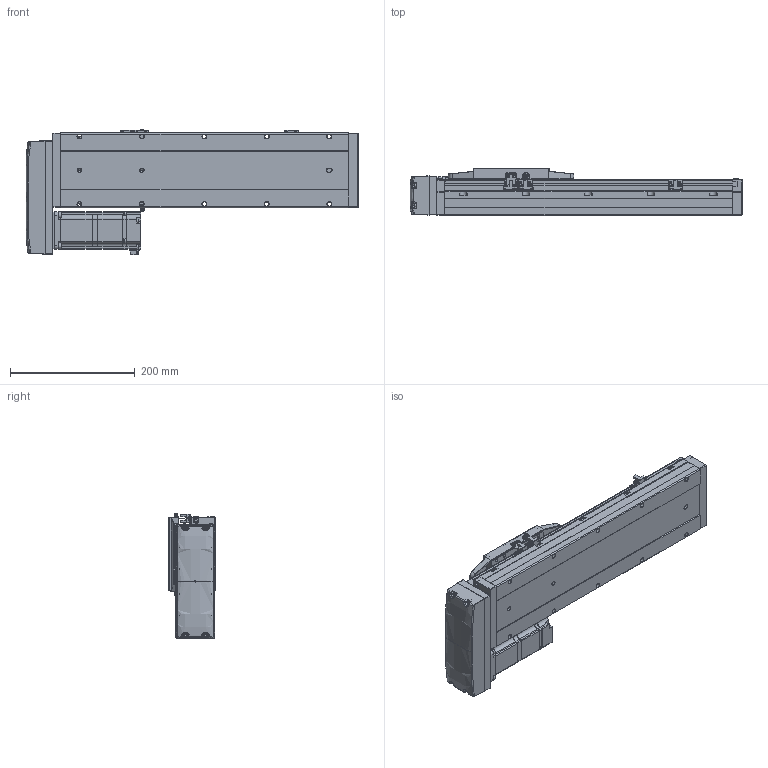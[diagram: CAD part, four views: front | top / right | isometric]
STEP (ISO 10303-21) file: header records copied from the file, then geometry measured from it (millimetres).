
FILE_DESCRIPTION (( 'STEP AP214' ), '1' );
FILE_NAME ('CTH12-L10-S250-BR-C40（简）.STEP', '2023-02-04T07:09:34', ( '' ), ( '' ), 'SwSTEP 2.0', 'SolidWorks 2018', '' );
FILE_SCHEMA (( 'AUTOMOTIVE_DESIGN' ));
Length unit declared in the file: millimetre
Products named in the file (24): M5蹟隊; 内六角圆柱头螺钉M3-1; 嫖萇羲壽郪磁2; CTH12侧装连接板（标准）简; PM-Y45; CTH400W假蚾啣; CTH12賑怢ㄗ潠ㄘ; 嫖萇羲壽郪磁1; CTH12-BL_body_4; CTH12耜蚾裔; CTH12覜茼え; AC60_Valor predeterminado; CTH12_body_3; CTH12-L10-S250-BR-C40（简）; 内六角圆柱头螺钉M3-2; CTH400W垫板（3个厚）; CTH嫖萇羲壽假蚾啣; CTH12; 湮賑怢  裔赽-1(CTH12)賑怢; CTH12賑怢郪磁; 内六角圆柱头螺钉M3; 蚐郲; CTH12底座-L461简（250行程）; hex nuts, style 1-grades ab gb_GB_FASTENER_NUT_SNAB1 M3-N
Assembly tree (44 placements, depth 4):
  CTH12-L10-S250-BR-C40（简）
    CTH12底座-L461简（250行程）
    蚐郲  x2
    CTH12_body_3
    CTH12-BL_body_4
    CTH12侧装连接板（标准）简
    CTH12耜蚾裔
    CTH12賑怢郪磁
      CTH12
        湮賑怢  裔赽-1(CTH12)賑怢
        CTH12賑怢ㄗ潠ㄘ
    CTH12覜茼え
    嫖萇羲壽郪磁1  x2
      CTH嫖萇羲壽假蚾啣
      PM-Y45
      内六角圆柱头螺钉M3-2
      内六角圆柱头螺钉M3-1
      hex nuts, style 1-grades ab gb_GB_FASTENER_NUT_SNAB1 M3-N
    嫖萇羲壽郪磁2
      CTH嫖萇羲壽假蚾啣
      PM-Y45
      内六角圆柱头螺钉M3-1  x2
      内六角圆柱头螺钉M3-2  x2
      hex nuts, style 1-grades ab gb_GB_FASTENER_NUT_SNAB1 M3-N  x2
    CTH400W垫板（3个厚）
    AC60_Valor predeterminado
    内六角圆柱头螺钉M3  x6
    M5蹟隊  x4
    CTH400W假蚾啣
Bounding box: 531.5 x 76 x 201.06 mm (x, y, z)
Volume: 4053277.3 mm3; surface area: 477328 mm2
Topology: 47 solids, 48 shells, 2663 faces, 6780 edges, 4335 vertices
Faces by surface type: plane 1471, cylinder 753, cone 295, bspline 92, torus 52
Entity records: 76093 total; most frequent: CARTESIAN_POINT 20646, ORIENTED_EDGE 10740, DIRECTION 10425, EDGE_CURVE 5370, AXIS2_PLACEMENT_3D 3512, VERTEX_POINT 3439, VECTOR 3401, LINE 3401
